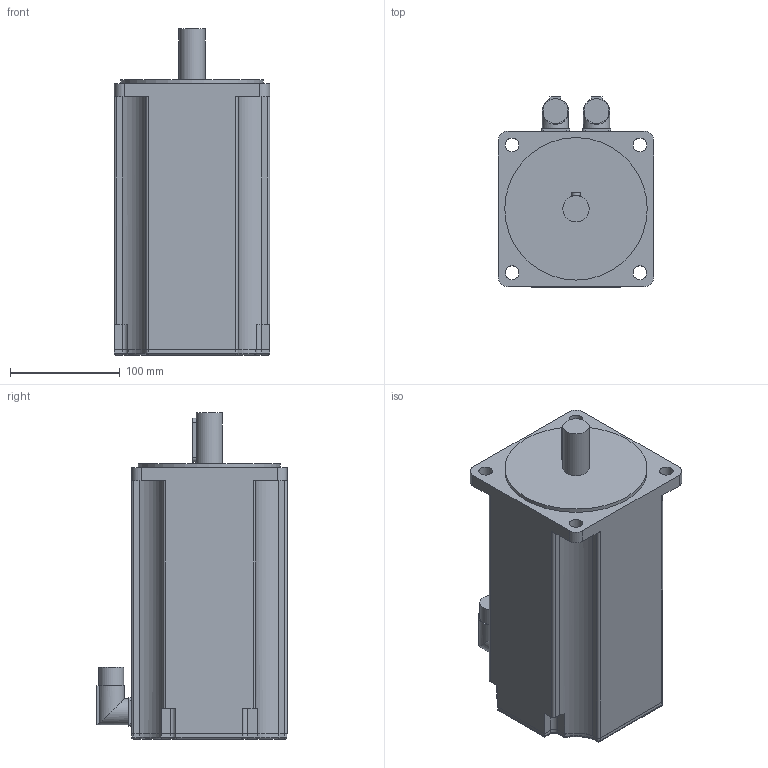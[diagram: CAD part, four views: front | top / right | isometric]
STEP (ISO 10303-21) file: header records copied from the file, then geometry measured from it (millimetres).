
FILE_DESCRIPTION(/* description */ (''),/* implementation_level */ '2;1');
FILE_NAME(/* name */ '\\Lafnas01\disegni\Archivi Lafert\3D\CAD 3D\MODELLI\Assiemi clienti\Serad\Modelli 3D Serad\B71Q\Resolver\Res Without Brake\B7120Qxx6A052033.ipt.stp',/* time_stamp */ '2015-09-07T10:53:02+02:00',/* author */ ('Pastrello Ylenia'),/* organization */ (''),/* preprocessor_version */ 'ST-DEVELOPER v15.6',/* originating_system */ 'Autodesk Inventor 2015',/* authorisation */ '');
FILE_SCHEMA (('AUTOMOTIVE_DESIGN { 1 0 10303 214 3 1 1 }'));
Length unit declared in the file: millimetre
Products named in the file (1): B7120Qxx6A052033
Bounding box: 142 x 173.5 x 298 mm (x, y, z)
Volume: 4443007.9 mm3; surface area: 183668.8 mm2
Topology: 1 solids, 1 shells, 154 faces, 400 edges, 258 vertices
Faces by surface type: plane 72, cylinder 70, torus 8, sphere 4
Full cylindrical faces by diameter (mm): 12.5 x4, 22.7 x2, 24 x3, 130 x1
Entity records: 4790 total; most frequent: CARTESIAN_POINT 933, DIRECTION 828, ORIENTED_EDGE 772, EDGE_CURVE 386, AXIS2_PLACEMENT_3D 297, VERTEX_POINT 254, LINE 234, VECTOR 234
